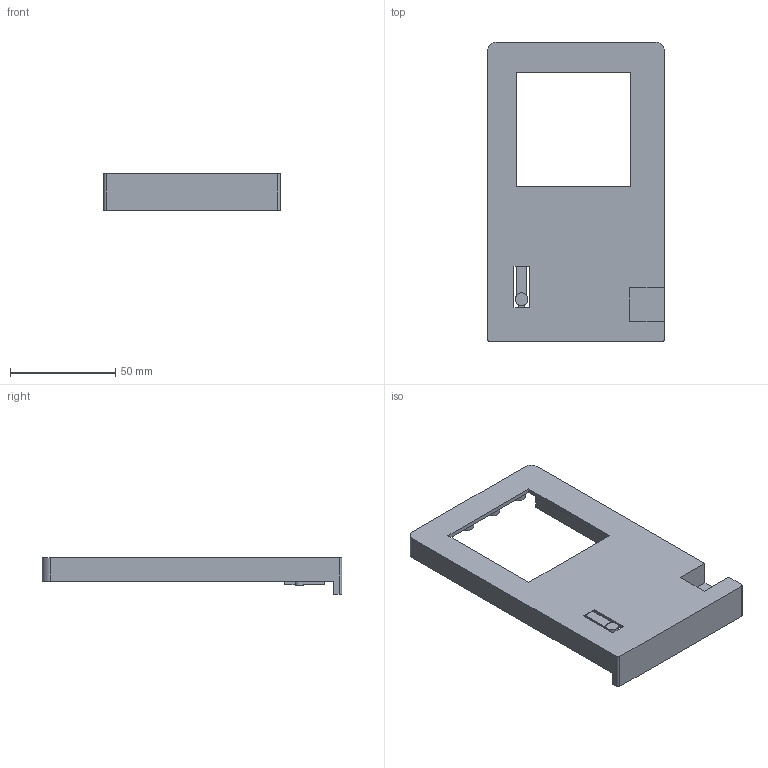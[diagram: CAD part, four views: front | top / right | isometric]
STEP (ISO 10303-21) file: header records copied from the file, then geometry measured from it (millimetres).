
FILE_DESCRIPTION(('FreeCAD Model'),'2;1');
FILE_NAME('Open CASCADE Shape Model','2026-11-05T07:51:26',('FreeCAD'),( 'FreeCAD'),'Open CASCADE STEP processor 7.8','FreeCAD','Unknown');
FILE_SCHEMA(('AUTOMOTIVE_DESIGN { 1 0 10303 214 1 1 1 1 }'));
Length unit declared in the file: millimetre
Products named in the file (1): Open CASCADE STEP translator 7.8 2
Bounding box: 84 x 142.4 x 17.5 mm (x, y, z)
Volume: 32071.5 mm3; surface area: 32485.1 mm2
Topology: 1 solids, 1 shells, 158 faces, 405 edges, 269 vertices
Faces by surface type: plane 126, cylinder 32
Full cylindrical faces by diameter (mm): 3.6 x1, 5.4 x8, 6 x1, 7.4 x8
Entity records: 4775 total; most frequent: CARTESIAN_POINT 833, ORIENTED_EDGE 810, DIRECTION 791, EDGE_CURVE 405, LINE 337, VECTOR 337, VERTEX_POINT 269, AXIS2_PLACEMENT_3D 227
